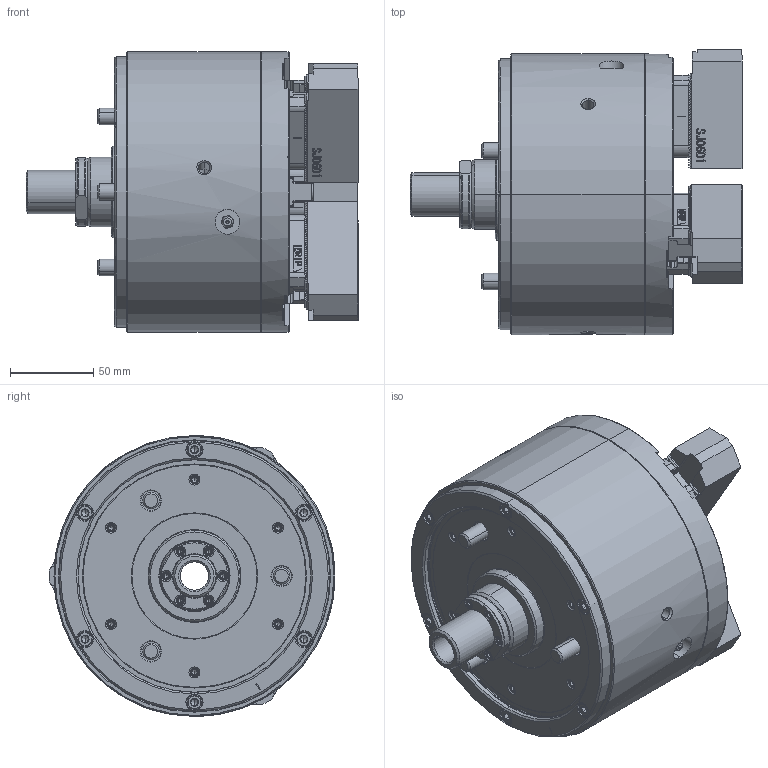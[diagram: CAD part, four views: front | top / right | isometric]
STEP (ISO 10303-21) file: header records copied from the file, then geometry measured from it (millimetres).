
FILE_DESCRIPTION (( 'STEP AP214' ), '1' );
FILE_NAME ('DL206_CL_ID.STEP', '2022-09-07T06:01:11', ( '' ), ( '' ), 'SwSTEP 2.0', 'SolidWorks 2020', '' );
FILE_SCHEMA (( 'AUTOMOTIVE_DESIGN' ));
Length unit declared in the file: millimetre
Products named in the file (5): 61P456464; 61P385747; 結合DL206_CL_ID^DL206; DL206_CL_ID; 0030110025
Assembly tree (13 placements, depth 2):
  DL206_CL_ID
    61P385747  x3
    61P456464  x3
    0030110025  x6
    結合DL206_CL_ID^DL206
Bounding box: 199.7 x 171.96 x 169 mm (x, y, z)
Volume: 2462018.8 mm3; surface area: 244969.8 mm2
Topology: 13 solids, 51 shells, 5971 faces, 16380 edges, 10680 vertices
Faces by surface type: plane 3540, bspline 1071, cylinder 707, cone 621, torus 28, sphere 4
Entity records: 192297 total; most frequent: CARTESIAN_POINT 73123, ORIENTED_EDGE 27238, DIRECTION 20333, EDGE_CURVE 13619, VECTOR 9013, LINE 9013, VERTEX_POINT 8958, AXIS2_PLACEMENT_3D 5660
